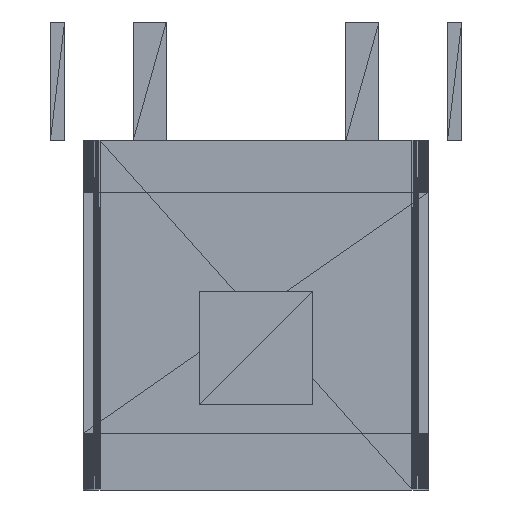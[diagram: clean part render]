
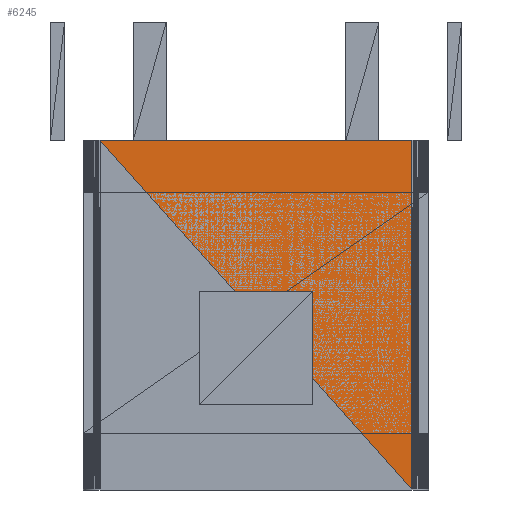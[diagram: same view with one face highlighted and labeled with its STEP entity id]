
A CAD part, left-side view. The second image highlights one B-rep face of the part: STEP entity #6245.
In plain terms, the highlighted planar face has unit normal (-1, 0, 0).
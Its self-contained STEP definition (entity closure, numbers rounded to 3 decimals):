
#1180 = VERTEX_POINT('',#1181);
#1181 = CARTESIAN_POINT('',(-36.85,8.7,
    -19.7));
#2352 = VERTEX_POINT('',#2353);
#2353 = CARTESIAN_POINT('',(-36.85,8.7,-12.3));
#2374 = PLANE('',#2375);
#2375 = AXIS2_PLACEMENT_3D('',#2376,#2377,#2378);
#2376 = CARTESIAN_POINT('',(-36.85,8.693,
    -15.993));
#2377 = DIRECTION('',(-0.999,-0.037,-0.));
#2378 = DIRECTION('',(0.037,-0.999,0.));
#4631 = VERTEX_POINT('',#4632);
#4632 = CARTESIAN_POINT('',(-36.85,15.3,-12.3));
#5721 = PLANE('',#5722);
#5722 = AXIS2_PLACEMENT_3D('',#5723,#5724,#5725);
#5723 = CARTESIAN_POINT('',(-35.378,12.778,-12.3));
#5724 = DIRECTION('',(0.,0.,1.));
#5725 = DIRECTION('',(1.,0.,-0.));
#5816 = EDGE_CURVE('',#4631,#2352,#5817,.T.);
#5817 = SURFACE_CURVE('',#5818,(#5822,#5829),.PCURVE_S1.);
#5818 = LINE('',#5819,#5820);
#5819 = CARTESIAN_POINT('',(-36.85,15.3,-12.3));
#5820 = VECTOR('',#5821,1.);
#5821 = DIRECTION('',(0.,-1.,0.));
#5822 = PCURVE('',#5721,#5823);
#5823 = DEFINITIONAL_REPRESENTATION('',(#5824),#5828);
#5824 = LINE('',#5825,#5826);
#5825 = CARTESIAN_POINT('',(-1.472,2.522));
#5826 = VECTOR('',#5827,1.);
#5827 = DIRECTION('',(0.,-1.));
#5828 = ( GEOMETRIC_REPRESENTATION_CONTEXT(2) 
PARAMETRIC_REPRESENTATION_CONTEXT() REPRESENTATION_CONTEXT('2D SPACE',''
  ) );
#5829 = PCURVE('',#5830,#5835);
#5830 = PLANE('',#5831);
#5831 = AXIS2_PLACEMENT_3D('',#5832,#5833,#5834);
#5832 = CARTESIAN_POINT('',(-36.85,10.979,
    -14.979));
#5833 = DIRECTION('',(-1.,-0.,-0.));
#5834 = DIRECTION('',(0.,0.,-1.));
#5835 = DEFINITIONAL_REPRESENTATION('',(#5836),#5840);
#5836 = LINE('',#5837,#5838);
#5837 = CARTESIAN_POINT('',(-2.679,-4.321));
#5838 = VECTOR('',#5839,1.);
#5839 = DIRECTION('',(0.,1.));
#5840 = ( GEOMETRIC_REPRESENTATION_CONTEXT(2) 
PARAMETRIC_REPRESENTATION_CONTEXT() REPRESENTATION_CONTEXT('2D SPACE',''
  ) );
#6245 = ADVANCED_FACE('',(#6246),#5830,.T.);
#6246 = FACE_BOUND('',#6247,.T.);
#6247 = EDGE_LOOP('',(#6248,#6269,#6270));
#6248 = ORIENTED_EDGE('',*,*,#6249,.T.);
#6249 = EDGE_CURVE('',#1180,#2352,#6250,.T.);
#6250 = SURFACE_CURVE('',#6251,(#6255,#6262),.PCURVE_S1.);
#6251 = LINE('',#6252,#6253);
#6252 = CARTESIAN_POINT('',(-36.85,8.7,
    -19.7));
#6253 = VECTOR('',#6254,1.);
#6254 = DIRECTION('',(0.,0.,1.));
#6255 = PCURVE('',#5830,#6256);
#6256 = DEFINITIONAL_REPRESENTATION('',(#6257),#6261);
#6257 = LINE('',#6258,#6259);
#6258 = CARTESIAN_POINT('',(4.721,2.279));
#6259 = VECTOR('',#6260,1.);
#6260 = DIRECTION('',(-1.,0.));
#6261 = ( GEOMETRIC_REPRESENTATION_CONTEXT(2) 
PARAMETRIC_REPRESENTATION_CONTEXT() REPRESENTATION_CONTEXT('2D SPACE',''
  ) );
#6262 = PCURVE('',#2374,#6263);
#6263 = DEFINITIONAL_REPRESENTATION('',(#6264),#6268);
#6264 = LINE('',#6265,#6266);
#6265 = CARTESIAN_POINT('',(-0.007,-3.707));
#6266 = VECTOR('',#6267,1.);
#6267 = DIRECTION('',(0.,1.));
#6268 = ( GEOMETRIC_REPRESENTATION_CONTEXT(2) 
PARAMETRIC_REPRESENTATION_CONTEXT() REPRESENTATION_CONTEXT('2D SPACE',''
  ) );
#6269 = ORIENTED_EDGE('',*,*,#5816,.F.);
#6270 = ORIENTED_EDGE('',*,*,#6271,.F.);
#6271 = EDGE_CURVE('',#1180,#4631,#6272,.T.);
#6272 = SURFACE_CURVE('',#6273,(#6277,#6284),.PCURVE_S1.);
#6273 = LINE('',#6274,#6275);
#6274 = CARTESIAN_POINT('',(-36.85,8.7,
    -19.7));
#6275 = VECTOR('',#6276,1.);
#6276 = DIRECTION('',(0.,0.666,0.746));
#6277 = PCURVE('',#5830,#6278);
#6278 = DEFINITIONAL_REPRESENTATION('',(#6279),#6283);
#6279 = LINE('',#6280,#6281);
#6280 = CARTESIAN_POINT('',(4.721,2.279));
#6281 = VECTOR('',#6282,1.);
#6282 = DIRECTION('',(-0.746,-0.666));
#6283 = ( GEOMETRIC_REPRESENTATION_CONTEXT(2) 
PARAMETRIC_REPRESENTATION_CONTEXT() REPRESENTATION_CONTEXT('2D SPACE',''
  ) );
#6284 = PCURVE('',#6285,#6290);
#6285 = PLANE('',#6286);
#6286 = AXIS2_PLACEMENT_3D('',#6287,#6288,#6289);
#6287 = CARTESIAN_POINT('',(-36.85,13.021,
    -17.021));
#6288 = DIRECTION('',(-1.,-0.,-0.));
#6289 = DIRECTION('',(0.,0.,-1.));
#6290 = DEFINITIONAL_REPRESENTATION('',(#6291),#6295);
#6291 = LINE('',#6292,#6293);
#6292 = CARTESIAN_POINT('',(2.679,4.321));
#6293 = VECTOR('',#6294,1.);
#6294 = DIRECTION('',(-0.746,-0.666));
#6295 = ( GEOMETRIC_REPRESENTATION_CONTEXT(2) 
PARAMETRIC_REPRESENTATION_CONTEXT() REPRESENTATION_CONTEXT('2D SPACE',''
  ) );
